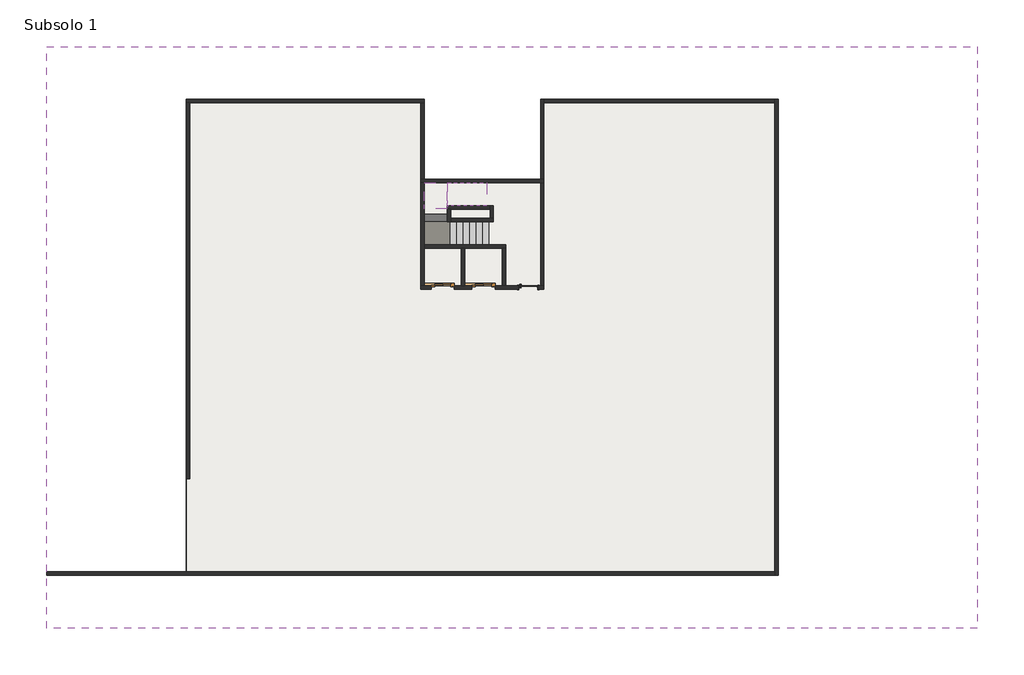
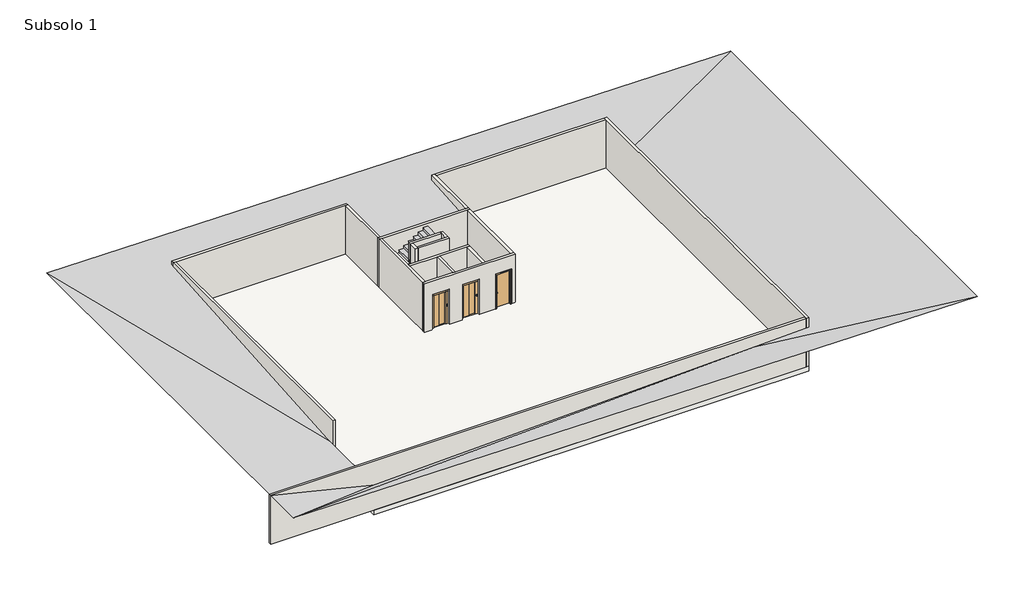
# One storey, incomplete: 18 walls, 6 slabs, 6 stair flights, 3 doors, 1 proxy.
"""IFC4 building model written with IfcOpenShell, lengths in millimetres."""

from ifc_helpers import new_model, si_unit, frame, origin, place, context, project, spatial, polyline, outline, extrude, faceted_brep, triangles, transform, mapped, element, save
from components import door_ffffc2e2, door_interior_single_flush_panel_wood_80m_pcf_192ded05

model = new_model("IFC4")

# Units and contexts
model_context = context("Model", 3, world=origin())
ifc_project = project(units=[si_unit("LENGTHUNIT", "METRE", prefix="MILLI")], contexts=[model_context])

# Site, building, storey
site = spatial("IfcSite", under=ifc_project)
building = spatial("IfcBuilding", under=site)
storey = spatial("IfcBuildingStorey", under=building, Name="Subsolo 1", Elevation=-2850.0)

# Proxy
placement = place(None, origin())
element("IfcBuildingElementProxy", 1, Name="Building Element Proxy", at=placement, inside=storey, context=model_context, shape_type="Tessellation", body=[
    triangles([(0.0, 24999.9996094, 150.0000011), (0.0, 0.0, 150.0000011), (40000.0003052, 0.0, -150.0000011), (40000.0003052, 24999.9996094, -150.0000011), (16225.0003418, 22724.998938, -145.1133899), (16225.0003418, 19299.2010681, -406.266045), (21224.9997986, 19299.2010681, -443.7660453), (21224.9997986, 22724.998938, -182.6133993), (31449.9989319, 22724.998938, -259.3008877), (31449.9989319, 20358.629425, -439.6920207), (31449.9989319, 2274.9999447, -439.6920207), (28256.0799316, 2274.9999447, -547.9087438), (6000.0000458, 2274.9999447, -1300.0000099), (6000.0000458, 6511.2101212, -1285.9322639), (6000.0000458, 6753.7569443, -1285.9322639), (6000.0000458, 22724.998938, -68.4258924)], [[2, 13, 14], [13, 2, 12], [14, 15, 2], [2, 15, 1], [1, 16, 5], [16, 1, 15], [5, 6, 8], [1, 5, 8], [3, 11, 12], [12, 2, 3], [10, 11, 3], [9, 4, 8], [4, 9, 10], [10, 3, 4], [8, 4, 1], [7, 8, 6]], closed=False),
])

# Doors
door_shape = door_ffffc2e2(model_context)
element("IfcDoor", 2, ObjectType="Porta do elevador : Porta do elevador", at=placement, inside=storey, context=model_context, shape_type="MappedRepresentation", body=[
    mapped(door_shape, transform((16900.0, 14650.0, -2850.0), x_axis=(1.0, 0.0, 0.0), y_axis=(0.0, 1.0, 0.0), z_axis=(0.0, 0.0, 1.0))),
])
element("IfcDoor", 3, ObjectType="Porta do elevador : Porta do elevador", at=placement, inside=storey, context=model_context, shape_type="MappedRepresentation", body=[
    mapped(door_shape, transform((18650.0, 14650.0, -2850.0), x_axis=(1.0, 0.0, 0.0), y_axis=(0.0, 1.0, 0.0), z_axis=(0.0, 0.0, 1.0))),
])
door_interior_single_flush_panel_wood_80m_pcf_shape = door_interior_single_flush_panel_wood_80m_pcf_192ded05(model_context)
element("IfcDoor", 4, ObjectType="Door-Interior-Single-Flush_Panel-Wood : .80m - PCF", at=placement, inside=storey, context=model_context, shape_type="MappedRepresentation", body=[
    mapped(door_interior_single_flush_panel_wood_80m_pcf_shape, transform((20699.6, 14653.175, -2850.0), x_axis=(1.0, 0.0, 0.0), y_axis=(0.0, 1.0, 0.0), z_axis=(0.0, 0.0, 1.0))),
])

# Slabs
element("IfcSlab", 5, ObjectType="Espessura de 300 mm", at=placement, inside=storey, context=model_context, shape_type="Brep", body=[
    faceted_brep([(17330.0, 16474.6009656, -1614.7058824), (17330.0, 17474.6009656, -1614.7058824), (17225.0, 17474.6009656, -1614.7058824), (16225.0, 17474.6009656, -1614.7058824), (16225.0, 16474.6009656, -1614.7058824), (16992.2327542, 16474.6009656, -1614.7058824), (17330.0, 16474.6009656, -1791.1764706), (17330.0, 16474.6009656, -2027.5843986), (17330.0, 17474.6009656, -2027.5843986), (17330.0, 17474.6009656, -1791.1764706), (17225.0, 17474.6009656, -1961.407928), (17225.0, 17474.6009656, -1814.7058824), (16992.2327542, 17474.6009656, -1814.7058824), (16225.0, 17474.6009656, -1814.7058824), (16225.0, 16474.6009656, -1814.7058824), (16992.2327542, 16474.6009656, -1814.7058824)], [[[0, 1, 2, 3, 4, 5]], [[1, 0, 6, 7, 8, 9]], [[2, 1, 9, 8, 10, 11]], [[3, 2, 11, 10, 12, 13]], [[4, 3, 13, 14]], [[7, 6, 0, 5, 4, 14, 15]], [[12, 15, 14, 13]], [[15, 12, 10, 8, 7]]]),
])
element("IfcSlab", 6, ObjectType="Espessura de 300 mm", at=placement, inside=storey, context=model_context, shape_type="Brep", body=[
    faceted_brep([(16225.0, 18034.6009656, -1085.2941176), (17225.0, 18034.6009656, -1085.2941176), (17225.0, 18149.2009656, -1085.2941176), (17225.0, 19149.2009656, -1085.2941176), (16225.0, 19149.2009656, -1085.2941176), (16225.0, 18372.3682114, -1085.2941176), (16225.0, 18034.6009656, -1261.7647059), (16225.0, 18034.6009656, -1498.1726339), (17225.0, 18034.6009656, -1498.1726339), (17225.0, 18034.6009656, -1261.7647059), (17225.0, 18149.2009656, -1425.9457431), (17225.0, 18149.2009656, -1285.2941176), (17225.0, 18372.3682114, -1285.2941176), (17225.0, 19149.2009656, -1285.2941176), (16225.0, 19149.2009656, -1285.2941176), (16225.0, 18372.3682114, -1285.2941176)], [[[0, 1, 2, 3, 4, 5]], [[1, 0, 6, 7, 8, 9]], [[2, 1, 9, 8, 10, 11]], [[3, 2, 11, 10, 12, 13]], [[4, 3, 13, 14]], [[7, 6, 0, 5, 4, 14, 15]], [[12, 15, 14, 13]], [[15, 12, 10, 8, 7]]]),
])
element("IfcSlab", 7, ObjectType="Espessura de 300 mm", at=placement, inside=storey, context=model_context, shape_type="Brep", body=[
    faceted_brep([(17330.0, 16474.6009656, -1614.7058824), (17330.0, 17474.6009656, -1614.7058824), (17225.0, 17474.6009656, -1614.7058824), (16225.0, 17474.6009656, -1614.7058824), (16225.0, 16474.6009656, -1614.7058824), (16992.2327542, 16474.6009656, -1614.7058824), (17330.0, 16474.6009656, -1791.1764706), (17330.0, 16474.6009656, -2027.5843986), (17330.0, 17474.6009656, -2027.5843986), (17330.0, 17474.6009656, -1791.1764706), (17225.0, 17474.6009656, -1961.407928), (17225.0, 17474.6009656, -1814.7058824), (16992.2327542, 17474.6009656, -1814.7058824), (16225.0, 17474.6009656, -1814.7058824), (16225.0, 16474.6009656, -1814.7058824), (16992.2327542, 16474.6009656, -1814.7058824)], [[[0, 1, 2, 3, 4, 5]], [[1, 0, 6, 7, 8, 9]], [[2, 1, 9, 8, 10, 11]], [[3, 2, 11, 10, 12, 13]], [[4, 3, 13, 14]], [[7, 6, 0, 5, 4, 14, 15]], [[12, 15, 14, 13]], [[15, 12, 10, 8, 7]]]),
])
element("IfcSlab", 8, ObjectType="Espessura de 300 mm", at=placement, inside=storey, context=model_context, shape_type="Brep", body=[
    faceted_brep([(16225.0, 18034.6009656, -1085.2941176), (17225.0, 18034.6009656, -1085.2941176), (17225.0, 18149.2009656, -1085.2941176), (17225.0, 19149.2009656, -1085.2941176), (16225.0, 19149.2009656, -1085.2941176), (16225.0, 18372.3682114, -1085.2941176), (16225.0, 18034.6009656, -1261.7647059), (16225.0, 18034.6009656, -1498.1726339), (17225.0, 18034.6009656, -1498.1726339), (17225.0, 18034.6009656, -1261.7647059), (17225.0, 18149.2009656, -1425.9457431), (17225.0, 18149.2009656, -1285.2941176), (17225.0, 18372.3682114, -1285.2941176), (17225.0, 19149.2009656, -1285.2941176), (16225.0, 19149.2009656, -1285.2941176), (16225.0, 18372.3682114, -1285.2941176)], [[[0, 1, 2, 3, 4, 5]], [[1, 0, 6, 7, 8, 9]], [[2, 1, 9, 8, 10, 11]], [[3, 2, 11, 10, 12, 13]], [[4, 3, 13, 14]], [[7, 6, 0, 5, 4, 14, 15]], [[12, 15, 14, 13]], [[15, 12, 10, 8, 7]]]),
])
element("IfcSlab", 9, ObjectType="Pad 1", at=placement, inside=storey, context=model_context, shape_type="SweptSolid", body=[
    extrude(outline(polyline([(16225.0, 22725.0), (16225.0, 19299.2009656), (21225.0, 19299.2009656), (21225.0, 22725.0), (31450.0, 22725.0), (31450.0, 2275.0), (6000.0, 2275.0), (6000.0, 22725.0), (16225.0, 22725.0)])), frame((0.0, 0.0, -3154.8), z_axis=(0.0, 0.0, 1.0), x_axis=(1.0, 0.0, 0.0)), (0.0, 0.0, 1.0), 304.8),
])
element("IfcSlab", 10, ObjectType="_Laje 15cm", at=placement, inside=storey, context=model_context, shape_type="SweptSolid", body=[
    extrude(outline(polyline([(16205.0, 22705.0), (16205.0, 19279.2009656), (21245.0, 19279.2009656), (21245.0, 22705.0), (31430.0, 22705.0), (31430.0, 2295.0), (6020.0, 2295.0), (6020.0, 22705.0), (16205.0, 22705.0)])), frame((0.0, 0.0, -3000.0), z_axis=(0.0, 0.0, 1.0), x_axis=(1.0, 0.0, 0.0)), (0.0, 0.0, 1.0), 150.0),
])

# Stair flights
element("IfcStairFlight", 11, ObjectType="Profundidade de 150mm", at=placement, inside=storey, context=model_context, shape_type="Brep", body=[
    faceted_brep([(18730.0, 16474.6009656, -2673.5294118), (19010.0, 16474.6009656, -2673.5294118), (19010.0, 17474.6009656, -2673.5294118), (18730.0, 17474.6009656, -2673.5294118), (18730.0, 16474.6009656, -2850.0), (19010.0, 16474.6009656, -2850.0), (19010.0, 17474.6009656, -2850.0), (18730.0, 17474.6009656, -2850.0), (18450.0, 16474.6009656, -2497.0588235), (18730.0, 16474.6009656, -2497.0588235), (18730.0, 17474.6009656, -2497.0588235), (18450.0, 17474.6009656, -2497.0588235), (18450.0, 16474.6009656, -2733.4667515), (18634.8994209, 16474.6009656, -2850.0), (18634.8994209, 17474.6009656, -2850.0), (18450.0, 17474.6009656, -2733.4667515), (18170.0, 16474.6009656, -2320.5882353), (18450.0, 16474.6009656, -2320.5882353), (18450.0, 17474.6009656, -2320.5882353), (18170.0, 17474.6009656, -2320.5882353), (18170.0, 16474.6009656, -2556.9961633), (18170.0, 17474.6009656, -2556.9961633), (17890.0, 16474.6009656, -2144.1176471), (18170.0, 16474.6009656, -2144.1176471), (18170.0, 17474.6009656, -2144.1176471), (17890.0, 17474.6009656, -2144.1176471), (17890.0, 16474.6009656, -2380.5255751), (17890.0, 17474.6009656, -2380.5255751), (17610.0, 16474.6009656, -2204.0549868), (17330.0, 16474.6009656, -2027.5843986), (17330.0, 17474.6009656, -2027.5843986), (17610.0, 17474.6009656, -2204.0549868), (17610.0, 16474.6009656, -1967.6470588), (17890.0, 16474.6009656, -1967.6470588), (17890.0, 17474.6009656, -1967.6470588), (17610.0, 17474.6009656, -1967.6470588), (17330.0, 16474.6009656, -1791.1764706), (17610.0, 16474.6009656, -1791.1764706), (17610.0, 17474.6009656, -1791.1764706), (17330.0, 17474.6009656, -1791.1764706)], [[[0, 1, 2, 3]], [[1, 0, 4, 5]], [[2, 1, 5, 6]], [[3, 2, 6, 7]], [[8, 9, 10, 11]], [[4, 0, 9, 8, 12, 13]], [[0, 3, 10, 9]], [[3, 7, 14, 15, 11, 10]], [[16, 17, 18, 19]], [[17, 16, 20, 12, 8]], [[8, 11, 18, 17]], [[19, 18, 11, 15, 21]], [[22, 23, 24, 25]], [[23, 22, 26, 20, 16]], [[16, 19, 24, 23]], [[25, 24, 19, 21, 27]], [[5, 4, 13, 14, 7, 6]], [[14, 13, 12, 20, 26, 28, 29, 30, 31, 27, 21, 15]], [[32, 33, 34, 35]], [[33, 32, 28, 26, 22]], [[22, 25, 34, 33]], [[35, 34, 25, 27, 31]], [[36, 37, 38, 39]], [[37, 36, 29, 28, 32]], [[32, 35, 38, 37]], [[39, 38, 35, 31, 30]], [[36, 39, 30, 29]]]),
])
element("IfcStairFlight", 12, ObjectType="Profundidade de 150mm", at=placement, inside=storey, context=model_context, shape_type="Brep", body=[
    faceted_brep([(17225.0, 17754.6009656, -1438.2352941), (16225.0, 17754.6009656, -1438.2352941), (16225.0, 17532.3682114, -1438.2352941), (16225.0, 17474.6009656, -1438.2352941), (16992.2327542, 17474.6009656, -1438.2352941), (17225.0, 17474.6009656, -1438.2352941), (17225.0, 17532.3682114, -1438.2352941), (16225.0, 17754.6009656, -1674.6432221), (16225.0, 17532.3682114, -1814.7058824), (16225.0, 17474.6009656, -1814.7058824), (16225.0, 17474.6009656, -1614.7058824), (16992.2327542, 17474.6009656, -1814.7058824), (17225.0, 17474.6009656, -1814.7058824), (17225.0, 17532.3682114, -1814.7058824), (17225.0, 17754.6009656, -1674.6432221), (16225.0, 18034.6009656, -1261.7647059), (16225.0, 17754.6009656, -1261.7647059), (17225.0, 17754.6009656, -1261.7647059), (17225.0, 18034.6009656, -1261.7647059), (16225.0, 18034.6009656, -1498.1726339), (17225.0, 18034.6009656, -1498.1726339)], [[[0, 1, 2, 3, 4, 5, 6]], [[1, 7, 8, 9, 10, 3, 2]], [[4, 3, 10, 9, 11, 12, 5]], [[5, 12, 13, 14, 0, 6]], [[15, 16, 17, 18]], [[16, 15, 19, 7, 1]], [[17, 16, 1, 0]], [[18, 17, 0, 14, 20]], [[15, 18, 20, 19]], [[13, 8, 7, 19, 20, 14]], [[8, 13, 12, 11, 9]]]),
])
element("IfcStairFlight", 13, ObjectType="Profundidade de 150mm", at=placement, inside=storey, context=model_context, shape_type="Brep", body=[
    faceted_brep([(17505.0, 18149.2009656, -908.8235294), (17505.0, 19149.2009656, -908.8235294), (17282.7672458, 19149.2009656, -908.8235294), (17225.0, 19149.2009656, -908.8235294), (17225.0, 18372.3682114, -908.8235294), (17225.0, 18149.2009656, -908.8235294), (17282.7672458, 18149.2009656, -908.8235294), (17505.0, 19149.2009656, -1145.2314574), (17282.7672458, 19149.2009656, -1285.2941176), (17225.0, 19149.2009656, -1285.2941176), (17225.0, 19149.2009656, -1085.2941176), (17225.0, 18372.3682114, -1285.2941176), (17225.0, 18149.2009656, -1285.2941176), (17282.7672458, 18149.2009656, -1285.2941176), (17505.0, 18149.2009656, -1145.2314574), (17785.0, 19149.2009656, -732.3529412), (17505.0, 19149.2009656, -732.3529412), (17505.0, 18149.2009656, -732.3529412), (17785.0, 18149.2009656, -732.3529412), (17785.0, 19149.2009656, -968.7608692), (17785.0, 18149.2009656, -968.7608692), (18065.0, 19149.2009656, -555.8823529), (17785.0, 19149.2009656, -555.8823529), (17785.0, 18149.2009656, -555.8823529), (18065.0, 18149.2009656, -555.8823529), (18065.0, 19149.2009656, -792.2902809), (18065.0, 18149.2009656, -792.2902809), (18345.0, 19149.2009656, -379.4117647), (18065.0, 19149.2009656, -379.4117647), (18065.0, 18149.2009656, -379.4117647), (18345.0, 18149.2009656, -379.4117647), (18345.0, 19149.2009656, -615.8196927), (18345.0, 18149.2009656, -615.8196927), (18625.0, 19149.2009656, -202.9411765), (18345.0, 19149.2009656, -202.9411765), (18345.0, 18149.2009656, -202.9411765), (18625.0, 18149.2009656, -202.9411765), (18625.0, 19149.2009656, -439.3491045), (18625.0, 18149.2009656, -439.3491045), (18905.0, 19149.2009656, -26.4705882), (18625.0, 19149.2009656, -26.4705882), (18625.0, 18149.2009656, -26.4705882), (18905.0, 18149.2009656, -26.4705882), (18905.0, 19149.2009656, -262.8785162), (18905.0, 18149.2009656, -262.8785162)], [[[0, 1, 2, 3, 4, 5, 6]], [[1, 7, 8, 9, 10, 3, 2]], [[4, 3, 10, 9, 11, 12, 5]], [[5, 12, 13, 14, 0, 6]], [[15, 16, 17, 18]], [[16, 15, 19, 7, 1]], [[17, 16, 1, 0]], [[18, 17, 0, 14, 20]], [[21, 22, 23, 24]], [[22, 21, 25, 19, 15]], [[23, 22, 15, 18]], [[24, 23, 18, 20, 26]], [[27, 28, 29, 30]], [[28, 27, 31, 25, 21]], [[29, 28, 21, 24]], [[30, 29, 24, 26, 32]], [[33, 34, 35, 36]], [[34, 33, 37, 31, 27]], [[35, 34, 27, 30]], [[36, 35, 30, 32, 38]], [[39, 40, 41, 42]], [[40, 39, 43, 37, 33]], [[41, 40, 33, 36]], [[42, 41, 36, 38, 44]], [[39, 42, 44, 43]], [[13, 8, 7, 19, 25, 31, 37, 43, 44, 38, 32, 26, 20, 14]], [[8, 13, 12, 11, 9]]]),
])
element("IfcStairFlight", 14, ObjectType="Profundidade de 150mm", at=placement, inside=storey, context=model_context, shape_type="Brep", body=[
    faceted_brep([(18730.0, 16474.6009656, -2673.5294118), (19010.0, 16474.6009656, -2673.5294118), (19010.0, 17474.6009656, -2673.5294118), (18730.0, 17474.6009656, -2673.5294118), (18730.0, 16474.6009656, -2850.0), (19010.0, 16474.6009656, -2850.0), (19010.0, 17474.6009656, -2850.0), (18730.0, 17474.6009656, -2850.0), (18450.0, 16474.6009656, -2497.0588235), (18730.0, 16474.6009656, -2497.0588235), (18730.0, 17474.6009656, -2497.0588235), (18450.0, 17474.6009656, -2497.0588235), (18450.0, 16474.6009656, -2733.4667515), (18634.8994209, 16474.6009656, -2850.0), (18634.8994209, 17474.6009656, -2850.0), (18450.0, 17474.6009656, -2733.4667515), (18170.0, 16474.6009656, -2320.5882353), (18450.0, 16474.6009656, -2320.5882353), (18450.0, 17474.6009656, -2320.5882353), (18170.0, 17474.6009656, -2320.5882353), (18170.0, 16474.6009656, -2556.9961633), (18170.0, 17474.6009656, -2556.9961633), (17890.0, 16474.6009656, -2144.1176471), (18170.0, 16474.6009656, -2144.1176471), (18170.0, 17474.6009656, -2144.1176471), (17890.0, 17474.6009656, -2144.1176471), (17890.0, 16474.6009656, -2380.5255751), (17890.0, 17474.6009656, -2380.5255751), (17610.0, 16474.6009656, -2204.0549868), (17330.0, 16474.6009656, -2027.5843986), (17330.0, 17474.6009656, -2027.5843986), (17610.0, 17474.6009656, -2204.0549868), (17610.0, 16474.6009656, -1967.6470588), (17890.0, 16474.6009656, -1967.6470588), (17890.0, 17474.6009656, -1967.6470588), (17610.0, 17474.6009656, -1967.6470588), (17330.0, 16474.6009656, -1791.1764706), (17610.0, 16474.6009656, -1791.1764706), (17610.0, 17474.6009656, -1791.1764706), (17330.0, 17474.6009656, -1791.1764706)], [[[0, 1, 2, 3]], [[1, 0, 4, 5]], [[2, 1, 5, 6]], [[3, 2, 6, 7]], [[8, 9, 10, 11]], [[4, 0, 9, 8, 12, 13]], [[0, 3, 10, 9]], [[3, 7, 14, 15, 11, 10]], [[16, 17, 18, 19]], [[17, 16, 20, 12, 8]], [[8, 11, 18, 17]], [[19, 18, 11, 15, 21]], [[22, 23, 24, 25]], [[23, 22, 26, 20, 16]], [[16, 19, 24, 23]], [[25, 24, 19, 21, 27]], [[5, 4, 13, 14, 7, 6]], [[14, 13, 12, 20, 26, 28, 29, 30, 31, 27, 21, 15]], [[32, 33, 34, 35]], [[33, 32, 28, 26, 22]], [[22, 25, 34, 33]], [[35, 34, 25, 27, 31]], [[36, 37, 38, 39]], [[37, 36, 29, 28, 32]], [[32, 35, 38, 37]], [[39, 38, 35, 31, 30]], [[36, 39, 30, 29]]]),
])
element("IfcStairFlight", 15, ObjectType="Profundidade de 150mm", at=placement, inside=storey, context=model_context, shape_type="Brep", body=[
    faceted_brep([(17225.0, 17754.6009656, -1438.2352941), (16225.0, 17754.6009656, -1438.2352941), (16225.0, 17532.3682114, -1438.2352941), (16225.0, 17474.6009656, -1438.2352941), (16992.2327542, 17474.6009656, -1438.2352941), (17225.0, 17474.6009656, -1438.2352941), (17225.0, 17532.3682114, -1438.2352941), (16225.0, 17754.6009656, -1674.6432221), (16225.0, 17532.3682114, -1814.7058824), (16225.0, 17474.6009656, -1814.7058824), (16225.0, 17474.6009656, -1614.7058824), (16992.2327542, 17474.6009656, -1814.7058824), (17225.0, 17474.6009656, -1814.7058824), (17225.0, 17532.3682114, -1814.7058824), (17225.0, 17754.6009656, -1674.6432221), (16225.0, 18034.6009656, -1261.7647059), (16225.0, 17754.6009656, -1261.7647059), (17225.0, 17754.6009656, -1261.7647059), (17225.0, 18034.6009656, -1261.7647059), (16225.0, 18034.6009656, -1498.1726339), (17225.0, 18034.6009656, -1498.1726339)], [[[0, 1, 2, 3, 4, 5, 6]], [[1, 7, 8, 9, 10, 3, 2]], [[4, 3, 10, 9, 11, 12, 5]], [[5, 12, 13, 14, 0, 6]], [[15, 16, 17, 18]], [[16, 15, 19, 7, 1]], [[17, 16, 1, 0]], [[18, 17, 0, 14, 20]], [[15, 18, 20, 19]], [[13, 8, 7, 19, 20, 14]], [[8, 13, 12, 11, 9]]]),
])
element("IfcStairFlight", 16, ObjectType="Profundidade de 150mm", at=placement, inside=storey, context=model_context, shape_type="Brep", body=[
    faceted_brep([(17505.0, 18149.2009656, -908.8235294), (17505.0, 19149.2009656, -908.8235294), (17282.7672458, 19149.2009656, -908.8235294), (17225.0, 19149.2009656, -908.8235294), (17225.0, 18372.3682114, -908.8235294), (17225.0, 18149.2009656, -908.8235294), (17282.7672458, 18149.2009656, -908.8235294), (17505.0, 19149.2009656, -1145.2314574), (17282.7672458, 19149.2009656, -1285.2941176), (17225.0, 19149.2009656, -1285.2941176), (17225.0, 19149.2009656, -1085.2941176), (17225.0, 18372.3682114, -1285.2941176), (17225.0, 18149.2009656, -1285.2941176), (17282.7672458, 18149.2009656, -1285.2941176), (17505.0, 18149.2009656, -1145.2314574), (17785.0, 19149.2009656, -732.3529412), (17505.0, 19149.2009656, -732.3529412), (17505.0, 18149.2009656, -732.3529412), (17785.0, 18149.2009656, -732.3529412), (17785.0, 19149.2009656, -968.7608692), (17785.0, 18149.2009656, -968.7608692), (18065.0, 19149.2009656, -555.8823529), (17785.0, 19149.2009656, -555.8823529), (17785.0, 18149.2009656, -555.8823529), (18065.0, 18149.2009656, -555.8823529), (18065.0, 19149.2009656, -792.2902809), (18065.0, 18149.2009656, -792.2902809), (18345.0, 19149.2009656, -379.4117647), (18065.0, 19149.2009656, -379.4117647), (18065.0, 18149.2009656, -379.4117647), (18345.0, 18149.2009656, -379.4117647), (18345.0, 19149.2009656, -615.8196927), (18345.0, 18149.2009656, -615.8196927), (18625.0, 19149.2009656, -202.9411765), (18345.0, 19149.2009656, -202.9411765), (18345.0, 18149.2009656, -202.9411765), (18625.0, 18149.2009656, -202.9411765), (18625.0, 19149.2009656, -439.3491045), (18625.0, 18149.2009656, -439.3491045), (18905.0, 19149.2009656, -26.4705882), (18625.0, 19149.2009656, -26.4705882), (18625.0, 18149.2009656, -26.4705882), (18905.0, 18149.2009656, -26.4705882), (18905.0, 19149.2009656, -262.8785162), (18905.0, 18149.2009656, -262.8785162)], [[[0, 1, 2, 3, 4, 5, 6]], [[1, 7, 8, 9, 10, 3, 2]], [[4, 3, 10, 9, 11, 12, 5]], [[5, 12, 13, 14, 0, 6]], [[15, 16, 17, 18]], [[16, 15, 19, 7, 1]], [[17, 16, 1, 0]], [[18, 17, 0, 14, 20]], [[21, 22, 23, 24]], [[22, 21, 25, 19, 15]], [[23, 22, 15, 18]], [[24, 23, 18, 20, 26]], [[27, 28, 29, 30]], [[28, 27, 31, 25, 21]], [[29, 28, 21, 24]], [[30, 29, 24, 26, 32]], [[33, 34, 35, 36]], [[34, 33, 37, 31, 27]], [[35, 34, 27, 30]], [[36, 35, 30, 32, 38]], [[39, 40, 41, 42]], [[40, 39, 43, 37, 33]], [[41, 40, 33, 36]], [[42, 41, 36, 38, 44]], [[39, 42, 44, 43]], [[13, 8, 7, 19, 25, 31, 37, 43, 44, 38, 32, 26, 20, 14]], [[8, 13, 12, 11, 9]]]),
])

# Walls
element("IfcWall", 17, ObjectType="M_Parede Normal - 15cm - Externa", at=placement, inside=storey, context=model_context, shape_type="Brep", body=[
    faceted_brep([(6000.0, 22575.0, -2850.0), (6150.0, 22575.0, -2850.0), (16075.0, 22575.0, -2850.0), (16225.0, 22575.0, -2850.0), (16225.0, 22575.0, 150.0), (16075.0, 22575.0, 150.0), (6150.0, 22575.0, 150.0), (6000.0, 22575.0, 150.0), (6000.0, 22725.0, -2850.0), (6000.0, 22725.0, 150.0), (16225.0, 22725.0, 150.0), (16225.0, 22725.0, -2850.0)], [[[0, 1, 2, 3, 4, 5, 6, 7]], [[8, 9, 10, 11]], [[3, 2, 1, 0, 8, 11]], [[7, 6, 5, 4, 10, 9]], [[0, 7, 9, 8]], [[4, 3, 11, 10]]]),
])
element("IfcWall", 18, ObjectType="M_Parede Normal - 15cm - Externa", at=placement, inside=storey, context=model_context, shape_type="Brep", body=[
    faceted_brep([(6150.0, 6425.0, -2850.0), (6150.0, 22575.0, -2850.0), (6150.0, 22575.0, 150.0), (6150.0, 6425.0, 150.0), (6000.0, 6425.0, -2850.0), (6000.0, 6425.0, -1200.0), (6000.0, 6425.0, 150.0), (6000.0, 6575.0, 150.0), (6000.0, 22575.0, 150.0), (6000.0, 22575.0, -2850.0), (6075.0, 6425.0, 150.0)], [[[0, 1, 2, 3]], [[4, 5, 6, 7, 8, 9]], [[1, 0, 4, 9]], [[3, 2, 8, 7, 6, 10]], [[2, 1, 9, 8]], [[0, 3, 10, 6, 5, 4]]]),
])
element("IfcWall", 19, ObjectType="M_Parede Normal - 15cm - Externa", at=placement, inside=storey, context=model_context, shape_type="Brep", body=[
    faceted_brep([(31300.0, 22725.0, -2850.0), (31300.0, 22575.0, -2850.0), (31300.0, 2425.0, -2850.0), (31300.0, 2275.0, -2850.0), (31300.0, 2275.0, 150.0), (31300.0, 2425.0, 150.0), (31300.0, 22575.0, 150.0), (31300.0, 22725.0, 150.0), (31450.0, 22725.0, -2850.0), (31450.0, 22725.0, 150.0), (31450.0, 2275.0, 150.0), (31450.0, 2275.0, -2850.0)], [[[0, 1, 2, 3, 4, 5, 6, 7]], [[8, 9, 10, 11]], [[3, 2, 1, 0, 8, 11]], [[7, 6, 5, 4, 10, 9]], [[0, 7, 9, 8]], [[4, 3, 11, 10]]]),
])
element("IfcWall", 20, ObjectType="M_Parede Normal - 15cm - Externa", at=placement, inside=storey, context=model_context, shape_type="SweptSolid", body=[
    extrude(outline(polyline([(0.0, 2425.0), (31300.0, 2425.0), (31300.0, 2275.0), (0.0, 2275.0), (0.0, 2425.0)])), frame((0.0, 0.0, -2850.0), z_axis=(0.0, 0.0, 1.0), x_axis=(1.0, 0.0, 0.0)), (0.0, 0.0, 1.0), 3000.0),
])
element("IfcWall", 21, ObjectType="M_Parede Normal - 15cm - Externa", at=placement, inside=storey, context=model_context, shape_type="Brep", body=[
    faceted_brep([(16075.0, 19149.2009656, -2850.0), (16225.0, 19149.2009656, -2850.0), (21225.0, 19149.2009656, -2850.0), (21375.0, 19149.2009656, -2850.0), (21375.0, 19149.2009656, 150.0), (21225.0, 19149.2009656, 150.0), (16225.0, 19149.2009656, 150.0), (16075.0, 19149.2009656, 150.0), (16075.0, 19299.2009656, -2850.0), (16075.0, 19299.2009656, 150.0), (16225.0, 19299.2009656, 150.0), (21225.0, 19299.2009656, 150.0), (21375.0, 19299.2009656, 150.0), (21375.0, 19299.2009656, -2850.0), (21225.0, 19299.2009656, -2850.0), (16225.0, 19299.2009656, -2850.0)], [[[0, 1, 2, 3, 4, 5, 6, 7]], [[8, 9, 10, 11, 12, 13, 14, 15]], [[3, 2, 1, 0, 8, 15, 14, 13]], [[7, 6, 5, 4, 12, 11, 10, 9]], [[0, 7, 9, 8]], [[4, 3, 13, 12]]]),
])
element("IfcWall", 22, ObjectType="M_Parede Normal - 15cm - Externa", at=placement, inside=storey, context=model_context, shape_type="SweptSolid", body=[
    extrude(outline(polyline([(16075.0, 19299.2009656), (16075.0, 22575.0), (16225.0, 22575.0), (16225.0, 19299.2009656), (16075.0, 19299.2009656)])), frame((0.0, 0.0, -2850.0), z_axis=(0.0, 0.0, 1.0), x_axis=(1.0, 0.0, 0.0)), (0.0, 0.0, 1.0), 3000.0),
])
element("IfcWall", 23, ObjectType="M_Parede Normal - 15cm - Externa", at=placement, inside=storey, context=model_context, shape_type="Brep", body=[
    faceted_brep([(21225.0, 22725.0, -2850.0), (21225.0, 19299.2009656, -2850.0), (21225.0, 19299.2009656, 150.0), (21225.0, 22725.0, 150.0), (21375.0, 22725.0, -2850.0), (21375.0, 22725.0, 150.0), (21375.0, 22575.0, 150.0), (21375.0, 19299.2009656, 150.0), (21375.0, 19299.2009656, -2850.0), (21375.0, 22575.0, -2850.0)], [[[0, 1, 2, 3]], [[4, 5, 6, 7, 8, 9]], [[1, 0, 4, 9, 8]], [[3, 2, 7, 6, 5]], [[2, 1, 8, 7]], [[0, 3, 5, 4]]]),
])
element("IfcWall", 24, ObjectType="M_Parede Normal - 15cm - Externa", at=placement, inside=storey, context=model_context, shape_type="SweptSolid", body=[
    extrude(outline(polyline([(31300.0, 22575.0), (21375.0, 22575.0), (21375.0, 22725.0), (31300.0, 22725.0), (31300.0, 22575.0)])), frame((0.0, 0.0, -2850.0), z_axis=(0.0, 0.0, 1.0), x_axis=(1.0, 0.0, 0.0)), (0.0, 0.0, 1.0), 3000.0),
])
element("IfcWall", 25, ObjectType="M_Parede Normal - 15cm - Interna", at=placement, inside=storey, context=model_context, shape_type="Brep", body=[
    faceted_brep([(17225.4, 17998.8009656, -2850.0), (17375.4, 17998.8009656, -2850.0), (19055.0, 17998.8009656, -2850.0), (19055.0, 17998.8009656, 150.0), (17375.4, 17998.8009656, 150.0), (17225.4, 17998.8009656, 150.0), (17225.4, 18148.8009656, -2850.0), (17225.4, 18148.8009656, 150.0), (19055.0, 18148.8009656, 150.0), (19055.0, 18148.8009656, -2850.0)], [[[0, 1, 2, 3, 4, 5]], [[6, 7, 8, 9]], [[2, 1, 0, 6, 9]], [[5, 4, 3, 8, 7]], [[0, 5, 7, 6]], [[3, 2, 9, 8]]]),
])
element("IfcWall", 26, ObjectType="M_Parede Normal - 15cm - Interna", at=placement, inside=storey, context=model_context, shape_type="Brep", body=[
    faceted_brep([(17375.4, 17474.2009656, -2850.0), (17375.4, 17624.2009656, -2850.0), (17375.4, 17998.8009656, -2850.0), (17375.4, 17998.8009656, 150.0), (17375.4, 17624.2009656, 150.0), (17375.4, 17474.2009656, 150.0), (17225.4, 17474.2009656, -2850.0), (17225.4, 17474.2009656, 150.0), (17225.4, 17998.8009656, 150.0), (17225.4, 17998.8009656, -2850.0)], [[[0, 1, 2, 3, 4, 5]], [[6, 7, 8, 9]], [[2, 1, 0, 6, 9]], [[5, 4, 3, 8, 7]], [[0, 5, 7, 6]], [[3, 2, 9, 8]]]),
])
element("IfcWall", 27, ObjectType="M_Parede Normal - 15cm - Interna", at=placement, inside=storey, context=model_context, shape_type="Brep", body=[
    faceted_brep([(19205.0, 17624.2009656, -2850.0), (19055.0, 17624.2009656, -2850.0), (17375.4, 17624.2009656, -2850.0), (17375.4, 17624.2009656, 150.0), (19055.0, 17624.2009656, 150.0), (19205.0, 17624.2009656, 150.0), (19205.0, 17474.2009656, -2850.0), (19205.0, 17474.2009656, 150.0), (17375.4, 17474.2009656, 150.0), (17375.4, 17474.2009656, -2850.0)], [[[0, 1, 2, 3, 4, 5]], [[6, 7, 8, 9]], [[2, 1, 0, 6, 9]], [[5, 4, 3, 8, 7]], [[0, 5, 7, 6]], [[3, 2, 9, 8]]]),
])
element("IfcWall", 28, ObjectType="M_Parede Normal - 15cm - Interna", at=placement, inside=storey, context=model_context, shape_type="Brep", body=[
    faceted_brep([(19055.0, 18148.8009656, -2850.0), (19055.0, 17998.8009656, -2850.0), (19055.0, 17624.2009656, -2850.0), (19055.0, 17624.2009656, 150.0), (19055.0, 17998.8009656, 150.0), (19055.0, 18148.8009656, 150.0), (19205.0, 18148.8009656, -2850.0), (19205.0, 18148.8009656, 150.0), (19205.0, 17624.2009656, 150.0), (19205.0, 17624.2009656, -2850.0)], [[[0, 1, 2, 3, 4, 5]], [[6, 7, 8, 9]], [[2, 1, 0, 6, 9]], [[5, 4, 3, 8, 7]], [[0, 5, 7, 6]], [[3, 2, 9, 8]]]),
])
element("IfcWall", 29, ObjectType="M_Parede Normal - 15cm - Interna", at=placement, inside=storey, context=model_context, shape_type="Brep", body=[
    faceted_brep([(16225.0, 16325.0, -2850.0), (17825.0, 16325.0, -2850.0), (17975.0, 16325.0, -2850.0), (19575.0, 16325.0, -2850.0), (19725.0, 16325.0, -2850.0), (19725.0, 16325.0, 150.0), (19575.0, 16325.0, 150.0), (17975.0, 16325.0, 150.0), (17825.0, 16325.0, 150.0), (16225.0, 16325.0, 150.0), (16225.0, 16475.0, -2850.0), (16225.0, 16475.0, 150.0), (19725.0, 16475.0, 150.0), (19725.0, 16475.0, -2850.0)], [[[0, 1, 2, 3, 4, 5, 6, 7, 8, 9]], [[10, 11, 12, 13]], [[4, 3, 2, 1, 0, 10, 13]], [[9, 8, 7, 6, 5, 12, 11]], [[5, 4, 13, 12]], [[0, 9, 11, 10]]]),
])
element("IfcWall", 30, ObjectType="M_Parede Normal - 15cm - Interna", at=placement, inside=storey, context=model_context, shape_type="Brep", body=[
    faceted_brep([(19275.0, 14575.0, -650.0), (19275.0, 14575.0, -2850.0), (20274.2, 14575.0, -2850.0), (20274.2, 14575.0, -724.6), (21125.0, 14575.0, -724.6), (21125.0, 14575.0, -2850.0), (21375.0, 14575.0, -2850.0), (21375.0, 14575.0, 150.0), (16075.0, 14575.0, 150.0), (16075.0, 14575.0, -2850.0), (16525.0, 14575.0, -2850.0), (16525.0, 14575.0, -650.0), (17525.0, 14575.0, -650.0), (17525.0, 14575.0, -2850.0), (18275.0, 14575.0, -2850.0), (18275.0, 14575.0, -650.0), (20274.2, 14725.0, -2850.0), (19725.0, 14725.0, -2850.0), (19575.0, 14725.0, -2850.0), (19275.0, 14725.0, -2850.0), (19275.0, 14725.0, -650.0), (18275.0, 14725.0, -650.0), (18275.0, 14725.0, -2850.0), (17975.0, 14725.0, -2850.0), (17825.0, 14725.0, -2850.0), (17525.0, 14725.0, -2850.0), (17525.0, 14725.0, -650.0), (16525.0, 14725.0, -650.0), (16525.0, 14725.0, -2850.0), (16225.0, 14725.0, -2850.0), (16075.0, 14725.0, -2850.0), (16075.0, 14725.0, 150.0), (16225.0, 14725.0, 150.0), (17825.0, 14725.0, 150.0), (17975.0, 14725.0, 150.0), (19575.0, 14725.0, 150.0), (19725.0, 14725.0, 150.0), (21225.0, 14725.0, 150.0), (21375.0, 14725.0, 150.0), (21375.0, 14725.0, -2850.0), (21225.0, 14725.0, -2850.0), (21125.0, 14725.0, -2850.0), (21125.0, 14725.0, -724.6), (20274.2, 14725.0, -724.6)], [[[0, 1, 2, 3, 4, 5, 6, 7, 8, 9, 10, 11, 12, 13, 14, 15]], [[16, 17, 18, 19, 20, 21, 22, 23, 24, 25, 26, 27, 28, 29, 30, 31, 32, 33, 34, 35, 36, 37, 38, 39, 40, 41, 42, 43]], [[10, 9, 30, 29, 28]], [[14, 13, 25, 24, 23, 22]], [[2, 1, 19, 18, 17, 16]], [[39, 6, 5, 41, 40]], [[8, 7, 38, 37, 36, 35, 34, 33, 32, 31]], [[4, 42, 41, 5]], [[42, 4, 3, 43]], [[43, 3, 2, 16]], [[28, 27, 11, 10]], [[26, 25, 13, 12]], [[27, 26, 12, 11]], [[22, 21, 15, 14]], [[20, 19, 1, 0]], [[21, 20, 0, 15]], [[9, 8, 31, 30]], [[7, 6, 39, 38]]]),
])
element("IfcWall", 31, ObjectType="M_Parede Normal - 15cm - Interna", at=placement, inside=storey, context=model_context, shape_type="SweptSolid", body=[
    extrude(outline(polyline([(19575.0, 14725.0), (19575.0, 16325.0), (19725.0, 16325.0), (19725.0, 14725.0), (19575.0, 14725.0)])), frame((0.0, 0.0, -2850.0), z_axis=(0.0, 0.0, 1.0), x_axis=(1.0, 0.0, 0.0)), (0.0, 0.0, 1.0), 3000.0),
])
element("IfcWall", 32, ObjectType="M_Parede Normal - 15cm - Interna", at=placement, inside=storey, context=model_context, shape_type="SweptSolid", body=[
    extrude(outline(polyline([(17825.0, 14725.0), (17825.0, 16325.0), (17975.0, 16325.0), (17975.0, 14725.0), (17825.0, 14725.0)])), frame((0.0, 0.0, -2850.0), z_axis=(0.0, 0.0, 1.0), x_axis=(1.0, 0.0, 0.0)), (0.0, 0.0, 1.0), 3000.0),
])
element("IfcWall", 33, ObjectType="M_Parede Normal - 15cm - Interna", at=placement, inside=storey, context=model_context, shape_type="Brep", body=[
    faceted_brep([(16075.0, 19149.2009656, -2850.0), (16075.0, 14725.0, -2850.0), (16075.0, 14725.0, 150.0), (16075.0, 19149.2009656, 150.0), (16225.0, 19149.2009656, -2850.0), (16225.0, 19149.2009656, 150.0), (16225.0, 16475.0, 150.0), (16225.0, 16325.0, 150.0), (16225.0, 14725.0, 150.0), (16225.0, 14725.0, -2850.0), (16225.0, 16325.0, -2850.0), (16225.0, 16475.0, -2850.0)], [[[0, 1, 2, 3]], [[4, 5, 6, 7, 8, 9, 10, 11]], [[1, 0, 4, 11, 10, 9]], [[3, 2, 8, 7, 6, 5]], [[0, 3, 5, 4]], [[2, 1, 9, 8]]]),
])
element("IfcWall", 34, ObjectType="M_Parede Normal - 15cm - Interna", at=placement, inside=storey, context=model_context, shape_type="SweptSolid", body=[
    extrude(outline(polyline([(21225.0, 14725.0), (21225.0, 19149.2009656), (21375.0, 19149.2009656), (21375.0, 14725.0), (21225.0, 14725.0)])), frame((0.0, 0.0, -2850.0), z_axis=(0.0, 0.0, 1.0), x_axis=(1.0, 0.0, 0.0)), (0.0, 0.0, 1.0), 3000.0),
])

save(model, "model.ifc")
